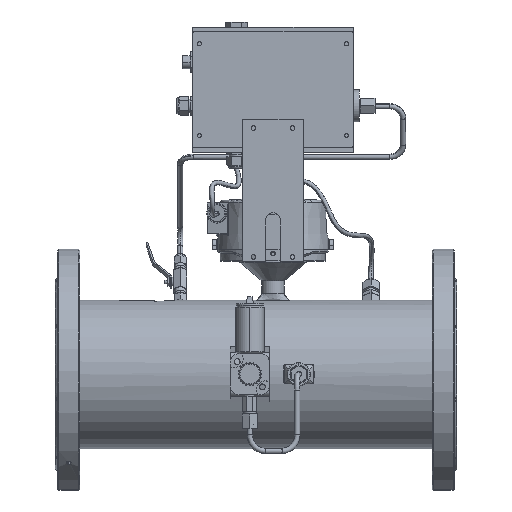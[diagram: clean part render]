
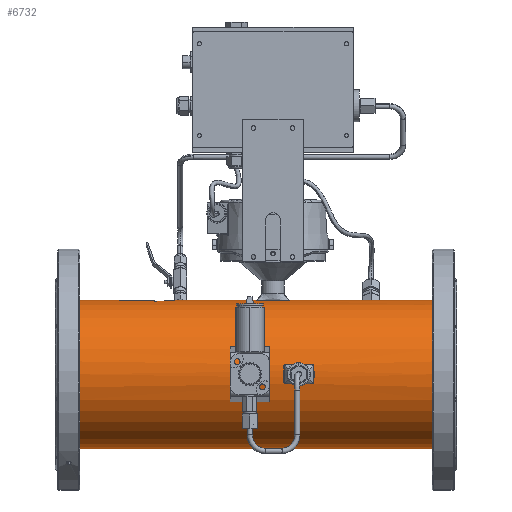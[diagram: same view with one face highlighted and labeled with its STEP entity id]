
A CAD part, top view. The second image highlights one B-rep face of the part: STEP entity #6732.
In plain terms, the highlighted cylindrical face has radius 83.2 mm (diameter 166.4 mm), a partial arc.
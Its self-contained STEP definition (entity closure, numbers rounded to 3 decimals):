
#5620=CARTESIAN_POINT('',(249.5,10.77,82.5));
#5621=CARTESIAN_POINT('',(248.563,3.59,83.437));
#5622=CARTESIAN_POINT('',(248.563,-3.59,83.437));
#5623=CARTESIAN_POINT('',(249.5,-10.77,82.5));
#5628=DIRECTION('',(1.,0.,0.));
#5629=VECTOR('',#5628,33.);
#5630=CARTESIAN_POINT('',(249.5,-10.77,82.5));
#5631=LINE('',#5630,#5629);
#5635=CARTESIAN_POINT('',(282.5,-10.77,82.5));
#5636=CARTESIAN_POINT('',(283.437,-3.59,83.437));
#5637=CARTESIAN_POINT('',(283.437,3.59,83.437));
#5638=CARTESIAN_POINT('',(282.5,10.77,82.5));
#5643=DIRECTION('',(1.,0.,0.));
#5644=VECTOR('',#5643,33.);
#5645=CARTESIAN_POINT('',(249.5,10.77,82.5));
#5646=LINE('',#5645,#5644);
#5650=CARTESIAN_POINT('',(64.34,0.,0.));
#5651=DIRECTION('',(1.,0.,0.));
#5652=DIRECTION('',(0.,1.,0.));
#5653=AXIS2_PLACEMENT_3D('',#5650,#5651,#5652);
#5658=DIRECTION('',(1.,0.,0.));
#5659=VECTOR('',#5658,40.);
#5660=CARTESIAN_POINT('',(64.34,82.983,6.));
#5661=LINE('',#5660,#5659);
#5665=CARTESIAN_POINT('',(104.34,0.,0.));
#5666=DIRECTION('',(1.,0.,0.));
#5667=DIRECTION('',(0.,0.997,0.072));
#5668=AXIS2_PLACEMENT_3D('',#5665,#5666,#5667);
#5673=CARTESIAN_POINT('',(130.321,83.2,0.));
#5674=CARTESIAN_POINT('',(121.642,83.2,5.01));
#5675=CARTESIAN_POINT('',(112.982,82.751,10.011));
#5676=CARTESIAN_POINT('',(104.34,81.837,15.));
#5681=CARTESIAN_POINT('',(218.3,83.2,0.));
#5682=CARTESIAN_POINT('',(218.3,83.2,3.62));
#5683=CARTESIAN_POINT('',(218.535,82.965,7.21));
#5684=CARTESIAN_POINT('',(219.,82.5,10.77));
#5689=DIRECTION('',(1.,0.,0.));
#5690=VECTOR('',#5689,36.);
#5691=CARTESIAN_POINT('',(219.,82.5,10.77));
#5692=LINE('',#5691,#5690);
#5696=CARTESIAN_POINT('',(255.7,83.2,0.));
#5697=CARTESIAN_POINT('',(255.7,83.2,3.62));
#5698=CARTESIAN_POINT('',(255.465,82.965,7.21));
#5699=CARTESIAN_POINT('',(255.,82.5,10.77));
#5704=CARTESIAN_POINT('',(416.,0.,0.));
#5705=DIRECTION('',(1.,0.,0.));
#5706=DIRECTION('',(0.,1.,0.));
#5707=AXIS2_PLACEMENT_3D('',#5704,#5705,#5706);
#5712=CARTESIAN_POINT('',(19.5,0.,0.));
#5713=DIRECTION('',(1.,0.,0.));
#5714=DIRECTION('',(0.,1.,0.));
#5715=AXIS2_PLACEMENT_3D('',#5712,#5713,#5714);
#5929=DIRECTION('',(-1.,0.,0.));
#5930=VECTOR('',#5929,44.84);
#5931=CARTESIAN_POINT('',(64.34,83.2,0.));
#5932=LINE('',#5931,#5930);
#5944=DIRECTION('',(-1.,0.,0.));
#5945=VECTOR('',#5944,396.5);
#5946=CARTESIAN_POINT('',(416.,-83.2,0.));
#5947=LINE('',#5946,#5945);
#5959=DIRECTION('',(-1.,0.,0.));
#5960=VECTOR('',#5959,160.3);
#5961=CARTESIAN_POINT('',(416.,83.2,0.));
#5962=LINE('',#5961,#5960);
#5989=DIRECTION('',(-1.,0.,0.));
#5990=VECTOR('',#5989,87.979);
#5991=CARTESIAN_POINT('',(218.3,83.2,0.));
#5992=LINE('',#5991,#5990);
#6481=CARTESIAN_POINT('',(416.,83.2,0.));
#6482=CARTESIAN_POINT('',(416.,-83.2,0.));
#6483=VERTEX_POINT('',#6481);
#6484=VERTEX_POINT('',#6482);
#6485=VERTEX_POINT('',#5681);
#6486=VERTEX_POINT('',#5684);
#6487=CARTESIAN_POINT('',(255.,82.5,10.77));
#6488=VERTEX_POINT('',#6487);
#6489=VERTEX_POINT('',#5696);
#6509=VERTEX_POINT('',#5620);
#6510=VERTEX_POINT('',#5623);
#6511=VERTEX_POINT('',#5635);
#6512=VERTEX_POINT('',#5638);
#6517=CARTESIAN_POINT('',(19.5,83.2,0.));
#6518=CARTESIAN_POINT('',(19.5,-83.2,0.));
#6519=VERTEX_POINT('',#6517);
#6520=VERTEX_POINT('',#6518);
#6585=CARTESIAN_POINT('',(64.34,83.2,0.));
#6586=CARTESIAN_POINT('',(64.34,82.983,6.));
#6587=VERTEX_POINT('',#6585);
#6588=VERTEX_POINT('',#6586);
#6589=CARTESIAN_POINT('',(104.34,82.983,6.));
#6590=VERTEX_POINT('',#6589);
#6591=CARTESIAN_POINT('',(104.34,81.837,15.));
#6592=VERTEX_POINT('',#6591);
#6593=VERTEX_POINT('',#5673);
#6690=CARTESIAN_POINT('',(-21.85,0.,0.));
#6691=DIRECTION('',(1.,0.,0.));
#6692=DIRECTION('',(0.,-1.,0.));
#6693=AXIS2_PLACEMENT_3D('',#6690,#6691,#6692);
#6694=CYLINDRICAL_SURFACE('',#6693,83.2);
#6696=ORIENTED_EDGE('',*,*,#6695,.T.);
#6698=ORIENTED_EDGE('',*,*,#6697,.T.);
#6700=ORIENTED_EDGE('',*,*,#6699,.T.);
#6702=ORIENTED_EDGE('',*,*,#6701,.F.);
#6704=ORIENTED_EDGE('',*,*,#6703,.F.);
#6706=ORIENTED_EDGE('',*,*,#6705,.T.);
#6708=ORIENTED_EDGE('',*,*,#6707,.T.);
#6710=ORIENTED_EDGE('',*,*,#6709,.F.);
#6712=ORIENTED_EDGE('',*,*,#6711,.F.);
#6713=ORIENTED_EDGE('',*,*,#6672,.T.);
#6715=ORIENTED_EDGE('',*,*,#6714,.T.);
#6717=ORIENTED_EDGE('',*,*,#6716,.F.);
#6719=ORIENTED_EDGE('',*,*,#6718,.F.);
#6720=EDGE_LOOP('',(#6696,#6698,#6700,#6702,#6704,#6706,#6708,#6710,#6712,#6713,
#6715,#6717,#6719));
#6721=FACE_OUTER_BOUND('',#6720,.F.);
#6723=ORIENTED_EDGE('',*,*,#6722,.T.);
#6725=ORIENTED_EDGE('',*,*,#6724,.T.);
#6727=ORIENTED_EDGE('',*,*,#6726,.T.);
#6729=ORIENTED_EDGE('',*,*,#6728,.F.);
#6730=EDGE_LOOP('',(#6723,#6725,#6727,#6729));
#6731=FACE_BOUND('',#6730,.F.);
#5624=B_SPLINE_CURVE_WITH_KNOTS('',3,(#5620,#5621,#5622,#5623),.UNSPECIFIED.,
.F.,.F.,(4,4),(0.,1.),.UNSPECIFIED.);
#5639=B_SPLINE_CURVE_WITH_KNOTS('',3,(#5635,#5636,#5637,#5638),.UNSPECIFIED.,
.F.,.F.,(4,4),(0.,1.),.UNSPECIFIED.);
#5654=CIRCLE('',#5653,83.2);
#5669=CIRCLE('',#5668,83.2);
#5677=B_SPLINE_CURVE_WITH_KNOTS('',3,(#5673,#5674,#5675,#5676),.UNSPECIFIED.,
.F.,.F.,(4,4),(0.,1.),.UNSPECIFIED.);
#5685=B_SPLINE_CURVE_WITH_KNOTS('',3,(#5681,#5682,#5683,#5684),.UNSPECIFIED.,
.F.,.F.,(4,4),(0.,1.),.UNSPECIFIED.);
#5700=B_SPLINE_CURVE_WITH_KNOTS('',3,(#5696,#5697,#5698,#5699),.UNSPECIFIED.,
.F.,.F.,(4,4),(0.,1.),.UNSPECIFIED.);
#5708=CIRCLE('',#5707,83.2);
#5716=CIRCLE('',#5715,83.2);
#6672=EDGE_CURVE('',#6483,#6484,#5708,.T.);
#6695=EDGE_CURVE('',#6587,#6588,#5654,.T.);
#6697=EDGE_CURVE('',#6588,#6590,#5661,.T.);
#6699=EDGE_CURVE('',#6590,#6592,#5669,.T.);
#6701=EDGE_CURVE('',#6593,#6592,#5677,.T.);
#6703=EDGE_CURVE('',#6485,#6593,#5992,.T.);
#6705=EDGE_CURVE('',#6485,#6486,#5685,.T.);
#6707=EDGE_CURVE('',#6486,#6488,#5692,.T.);
#6709=EDGE_CURVE('',#6489,#6488,#5700,.T.);
#6711=EDGE_CURVE('',#6483,#6489,#5962,.T.);
#6714=EDGE_CURVE('',#6484,#6520,#5947,.T.);
#6716=EDGE_CURVE('',#6519,#6520,#5716,.T.);
#6718=EDGE_CURVE('',#6587,#6519,#5932,.T.);
#6722=EDGE_CURVE('',#6509,#6510,#5624,.T.);
#6724=EDGE_CURVE('',#6510,#6511,#5631,.T.);
#6726=EDGE_CURVE('',#6511,#6512,#5639,.T.);
#6728=EDGE_CURVE('',#6509,#6512,#5646,.T.);
#6732=ADVANCED_FACE('',(#6721,#6731),#6694,.T.);
